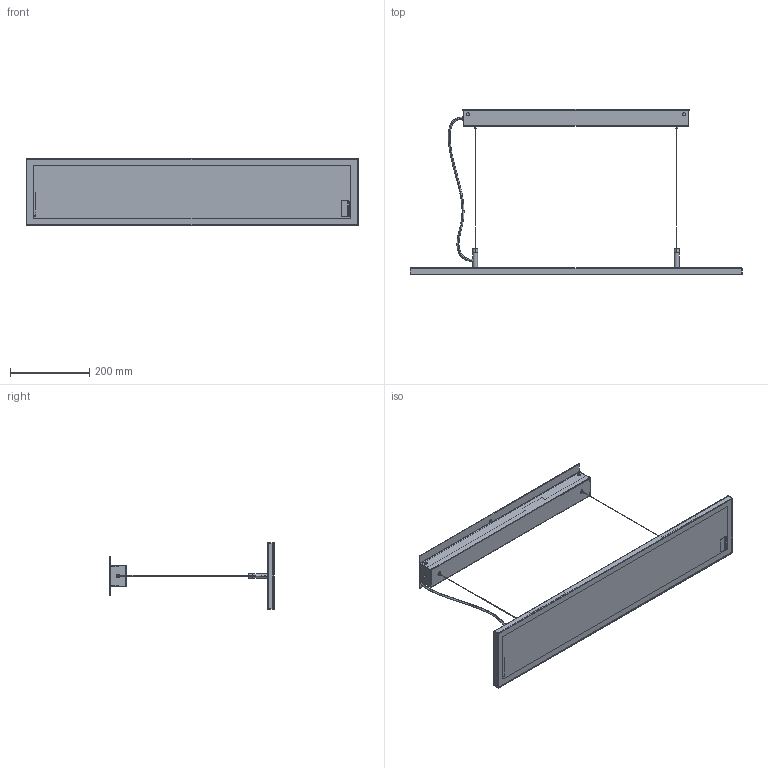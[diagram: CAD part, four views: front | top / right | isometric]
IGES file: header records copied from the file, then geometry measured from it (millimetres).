
Start section: SolidWorks IGES file using analytic representation for surfaces
Global section: file name: C:\SANTACOLE_PDM\Proyectos Catálogo\PROD-P11-009 -- PIERO\6_Técnico comercial\3D\Suspensión\Blanco White R3.IGS; native system: SolidWorks 2019; preprocessor: SolidWorks 2019; author: ana.pascual; date: 200403.132546; units: millimetre
Bounding box: 838.5 x 416.5 x 169 mm (x, y, z)
Surface area: 1071045.3 mm2 (no closed solid volume)
Topology: 0 solids, 0 shells, 1197 faces, 10990 edges, 10990 vertices
Faces by surface type: bspline 929, revolution 268
